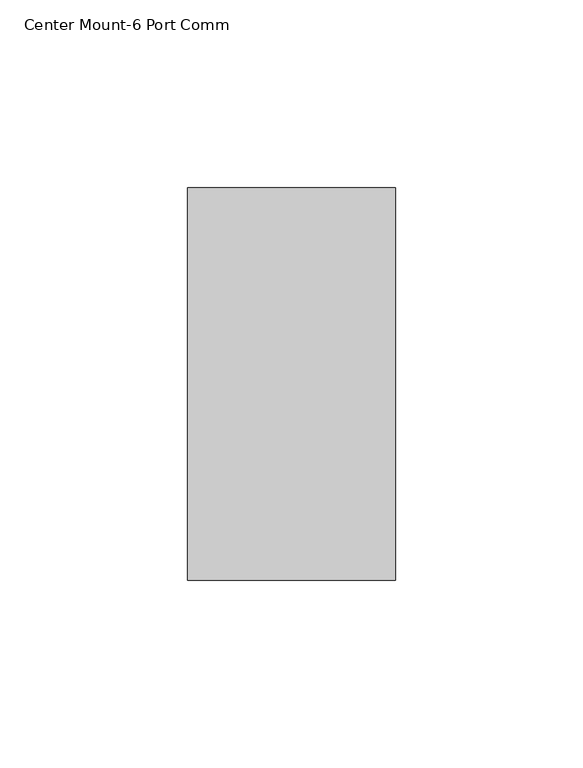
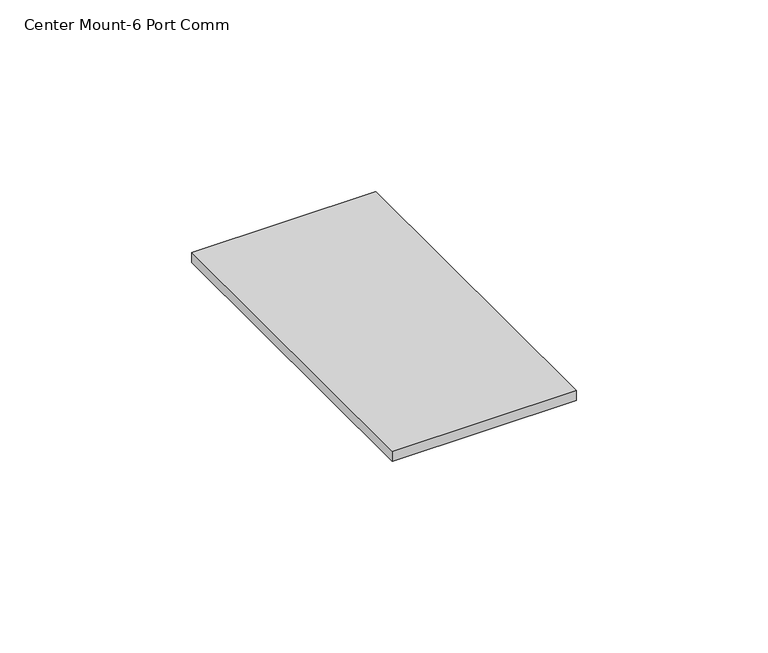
"""IFC4 building model written with IfcOpenShell, lengths in millimetres: proxy geometry, Device_Plate-Evolution_Poke_Thru_8AT_Series-Wiremold : Center Mount-6 Port Comm."""

from ifc_helpers import new_model, si_unit, origin, origin_with_axes, place, context, project, spatial, polyline, outline, extrude, source, transform, mapped, element, save


def center_mount_6_port_comm_3d870548(model_context):
    return source(origin(), model_context, "Body", "SweptSolid", [
        extrude(outline(polyline([(27.7876, 52.3875), (27.7876, -52.3875), (-27.7876, -52.3875), (-27.7876, 52.3875), (27.7876, 52.3875)])), origin_with_axes(), (0.0, 0.0, 1.0), 3.175),
    ])


if __name__ == "__main__":
    model = new_model("IFC4")
    model_context = context("Model", 3, world=origin())
    ifc_project = project(units=[si_unit("LENGTHUNIT", "METRE", prefix="MILLI")], contexts=[model_context])
    site = spatial("IfcSite", under=ifc_project)
    building = spatial("IfcBuilding", under=site)
    placement = place(None, origin())
    center_mount_6_port_comm_shape = center_mount_6_port_comm_3d870548(model_context)
    element("IfcBuildingElementProxy", 1, Name="Device_Plate-Evolution_Poke_Thru_8AT_Series-Wiremold : Center Mount-6 Port Comm", ObjectType="Device_Plate-Evolution_Poke_Thru_8AT_Series-Wiremold : Center Mount-6 Port Comm", at=placement, inside=building, context=model_context, shape_type="MappedRepresentation", body=[
        mapped(center_mount_6_port_comm_shape, transform((0.0, 0.0, 0.0), x_axis=(1.0, 0.0, 0.0), y_axis=(0.0, 1.0, 0.0), z_axis=(0.0, 0.0, 1.0))),
    ])
    save(model, "model.ifc")
